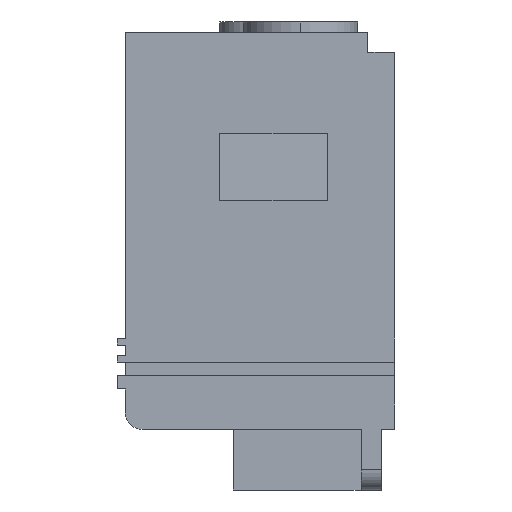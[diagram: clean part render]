
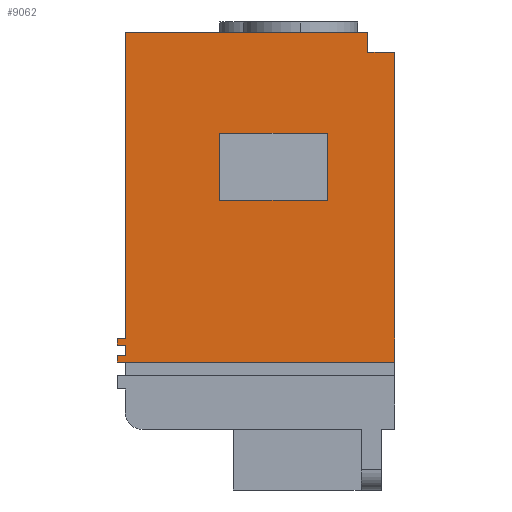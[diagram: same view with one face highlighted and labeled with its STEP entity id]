
A CAD part, left-side view. The second image highlights one B-rep face of the part: STEP entity #9062.
In plain terms, the highlighted planar face has unit normal (-1, 0, 0).
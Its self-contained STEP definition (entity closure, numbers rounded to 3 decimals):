
#585 = VECTOR ( 'NONE', #1659, 1000. ) ;
#591 = VECTOR ( 'NONE', #1644, 1000. ) ;
#1642 = LINE ( 'NONE', #1643, #591 ) ;
#1643 = CARTESIAN_POINT ( 'NONE',  ( -61., 12., -16.5 ) ) ;
#1644 = DIRECTION ( 'NONE',  ( 0., 0., -1. ) ) ;
#1657 = LINE ( 'NONE', #1658, #585 ) ;
#1658 = CARTESIAN_POINT ( 'NONE',  ( -61., -4., -26.5 ) ) ;
#1659 = DIRECTION ( 'NONE',  ( 0., 1., 0. ) ) ;
#2043 = VERTEX_POINT ( 'NONE', #4671 ) ;
#2414 = ORIENTED_EDGE ( 'NONE', *, *, #15225, .T. ) ;
#2415 = ORIENTED_EDGE ( 'NONE', *, *, #15226, .F. ) ;
#2416 = ORIENTED_EDGE ( 'NONE', *, *, #15224, .F. ) ;
#2417 = ORIENTED_EDGE ( 'NONE', *, *, #15227, .T. ) ;
#2418 = ORIENTED_EDGE ( 'NONE', *, *, #15228, .F. ) ;
#2419 = ORIENTED_EDGE ( 'NONE', *, *, #15168, .F. ) ;
#2420 = ORIENTED_EDGE ( 'NONE', *, *, #15229, .F. ) ;
#2421 = ORIENTED_EDGE ( 'NONE', *, *, #15231, .T. ) ;
#2422 = ORIENTED_EDGE ( 'NONE', *, *, #15230, .F. ) ;
#2423 = ORIENTED_EDGE ( 'NONE', *, *, #15232, .F. ) ;
#2424 = ORIENTED_EDGE ( 'NONE', *, *, #15233, .F. ) ;
#2425 = ORIENTED_EDGE ( 'NONE', *, *, #15235, .F. ) ;
#2426 = ORIENTED_EDGE ( 'NONE', *, *, #15236, .F. ) ;
#3078 = VERTEX_POINT ( 'NONE', #7966 ) ;
#3080 = VERTEX_POINT ( 'NONE', #7968 ) ;
#3167 = VERTEX_POINT ( 'NONE', #8055 ) ;
#3168 = VERTEX_POINT ( 'NONE', #8056 ) ;
#3169 = VERTEX_POINT ( 'NONE', #8057 ) ;
#3171 = VERTEX_POINT ( 'NONE', #8059 ) ;
#3172 = VERTEX_POINT ( 'NONE', #8060 ) ;
#3173 = VERTEX_POINT ( 'NONE', #8061 ) ;
#3174 = VERTEX_POINT ( 'NONE', #8062 ) ;
#3175 = VERTEX_POINT ( 'NONE', #8063 ) ;
#3176 = VERTEX_POINT ( 'NONE', #8064 ) ;
#3178 = VERTEX_POINT ( 'NONE', #8066 ) ;
#3179 = VERTEX_POINT ( 'NONE', #8067 ) ;
#3180 = VERTEX_POINT ( 'NONE', #8068 ) ;
#3186 = VERTEX_POINT ( 'NONE', #8074 ) ;
#4671 = CARTESIAN_POINT ( 'NONE',  ( -61., 12., -26.5 ) ) ;
#6883 = EDGE_LOOP ( 'NONE', ( #2414, #2416, #2415, #2417, #2418, #2419, #2420, #2422, #2421, #2423, #2424, #2425 ) ) ;
#6884 = EDGE_LOOP ( 'NONE', ( #2426, #7370, #7377, #7350 ) ) ;
#7350 = ORIENTED_EDGE ( 'NONE', *, *, #8914, .F. ) ;
#7370 = ORIENTED_EDGE ( 'NONE', *, *, #15234, .T. ) ;
#7377 = ORIENTED_EDGE ( 'NONE', *, *, #8919, .T. ) ;
#7966 = CARTESIAN_POINT ( 'NONE',  ( -61., 26., -47. ) ) ;
#7968 = CARTESIAN_POINT ( 'NONE',  ( -61., 26., -1.5 ) ) ;
#8055 = CARTESIAN_POINT ( 'NONE',  ( -61., 27.2, -50.5 ) ) ;
#8056 = CARTESIAN_POINT ( 'NONE',  ( -61., -14., -50.5 ) ) ;
#8057 = CARTESIAN_POINT ( 'NONE',  ( -61., -14., -4.5 ) ) ;
#8059 = CARTESIAN_POINT ( 'NONE',  ( -61., -10., -1.5 ) ) ;
#8060 = CARTESIAN_POINT ( 'NONE',  ( -61., -10., -4.5 ) ) ;
#8061 = CARTESIAN_POINT ( 'NONE',  ( -61., 27.2, -47. ) ) ;
#8062 = CARTESIAN_POINT ( 'NONE',  ( -61., 26., -49.5 ) ) ;
#8063 = CARTESIAN_POINT ( 'NONE',  ( -61., 26., -48. ) ) ;
#8064 = CARTESIAN_POINT ( 'NONE',  ( -61., 27.2, -48. ) ) ;
#8066 = CARTESIAN_POINT ( 'NONE',  ( -61., 27.2, -49.5 ) ) ;
#8067 = CARTESIAN_POINT ( 'NONE',  ( -61., -4., -16.5 ) ) ;
#8068 = CARTESIAN_POINT ( 'NONE',  ( -61., 12., -16.5 ) ) ;
#8074 = CARTESIAN_POINT ( 'NONE',  ( -61., -4., -26.5 ) ) ;
#8914 = EDGE_CURVE ( 'NONE', #3180, #2043, #1642, .T. ) ;
#8919 = EDGE_CURVE ( 'NONE', #3186, #2043, #1657, .T. ) ;
#9062 = ADVANCED_FACE ( 'NONE', ( #12917, #12920 ), #17939, .F. ) ;
#11518 = LINE ( 'NONE', #11519, #14225 ) ;
#11519 = CARTESIAN_POINT ( 'NONE',  ( -61., -14., -7.5 ) ) ;
#11520 = DIRECTION ( 'NONE',  ( 0., 0., -1. ) ) ;
#11521 = LINE ( 'NONE', #11522, #14226 ) ;
#11522 = CARTESIAN_POINT ( 'NONE',  ( -61., 27.2, -50.5 ) ) ;
#11523 = DIRECTION ( 'NONE',  ( 0., -1., 0. ) ) ;
#11524 = LINE ( 'NONE', #11525, #14227 ) ;
#11525 = CARTESIAN_POINT ( 'NONE',  ( -61., -14., -4.5 ) ) ;
#11526 = DIRECTION ( 'NONE',  ( 0., -1., 0. ) ) ;
#11527 = LINE ( 'NONE', #11528, #14228 ) ;
#11528 = CARTESIAN_POINT ( 'NONE',  ( -61., -10., -4.5 ) ) ;
#11529 = DIRECTION ( 'NONE',  ( 0., 0., 1. ) ) ;
#11530 = LINE ( 'NONE', #11531, #14229 ) ;
#11531 = CARTESIAN_POINT ( 'NONE',  ( -61., 26., -1.5 ) ) ;
#11532 = DIRECTION ( 'NONE',  ( 0., -1., 0. ) ) ;
#11533 = LINE ( 'NONE', #11534, #14230 ) ;
#11534 = CARTESIAN_POINT ( 'NONE',  ( -61., 27.2, -47. ) ) ;
#11535 = DIRECTION ( 'NONE',  ( 0., -1., 0. ) ) ;
#11536 = LINE ( 'NONE', #11537, #14231 ) ;
#11537 = CARTESIAN_POINT ( 'NONE',  ( -61., 27.2, -48. ) ) ;
#11538 = DIRECTION ( 'NONE',  ( 0., 0., 1. ) ) ;
#11539 = LINE ( 'NONE', #11540, #14232 ) ;
#11540 = CARTESIAN_POINT ( 'NONE',  ( -61., 27.2, -48. ) ) ;
#11541 = DIRECTION ( 'NONE',  ( 0., -1., 0. ) ) ;
#11542 = LINE ( 'NONE', #11543, #14233 ) ;
#11543 = CARTESIAN_POINT ( 'NONE',  ( -61., 26., -54.5 ) ) ;
#11544 = DIRECTION ( 'NONE',  ( 0., 0., 1. ) ) ;
#11545 = LINE ( 'NONE', #11546, #14234 ) ;
#11546 = CARTESIAN_POINT ( 'NONE',  ( -61., 27.2, -49.5 ) ) ;
#11547 = DIRECTION ( 'NONE',  ( 0., -1., 0. ) ) ;
#11548 = LINE ( 'NONE', #11549, #14235 ) ;
#11549 = CARTESIAN_POINT ( 'NONE',  ( -61., -4., -16.5 ) ) ;
#11550 = DIRECTION ( 'NONE',  ( 0., 0., -1. ) ) ;
#11551 = LINE ( 'NONE', #11552, #14236 ) ;
#11552 = CARTESIAN_POINT ( 'NONE',  ( -61., 27.2, -50.5 ) ) ;
#11553 = DIRECTION ( 'NONE',  ( 0., 0., 1. ) ) ;
#11554 = LINE ( 'NONE', #11555, #14237 ) ;
#11555 = CARTESIAN_POINT ( 'NONE',  ( -61., -4., -16.5 ) ) ;
#11556 = DIRECTION ( 'NONE',  ( 0., 1., 0. ) ) ;
#12893 = AXIS2_PLACEMENT_3D ( 'NONE', #17940, #17941, #17942 ) ;
#12917 = FACE_OUTER_BOUND ( 'NONE', #6883, .T. ) ;
#12920 = FACE_BOUND ( 'NONE', #6884, .T. ) ;
#13950 = LINE ( 'NONE', #13951, #14169 ) ;
#13951 = CARTESIAN_POINT ( 'NONE',  ( -61., 26., -7.5 ) ) ;
#13952 = DIRECTION ( 'NONE',  ( 0., 0., 1. ) ) ;
#14169 = VECTOR ( 'NONE', #13952, 1000. ) ;
#14225 = VECTOR ( 'NONE', #11520, 1000. ) ;
#14226 = VECTOR ( 'NONE', #11523, 1000. ) ;
#14227 = VECTOR ( 'NONE', #11526, 1000. ) ;
#14228 = VECTOR ( 'NONE', #11529, 1000. ) ;
#14229 = VECTOR ( 'NONE', #11532, 1000. ) ;
#14230 = VECTOR ( 'NONE', #11535, 1000. ) ;
#14231 = VECTOR ( 'NONE', #11538, 1000. ) ;
#14232 = VECTOR ( 'NONE', #11541, 1000. ) ;
#14233 = VECTOR ( 'NONE', #11544, 1000. ) ;
#14234 = VECTOR ( 'NONE', #11547, 1000. ) ;
#14235 = VECTOR ( 'NONE', #11550, 1000. ) ;
#14236 = VECTOR ( 'NONE', #11553, 1000. ) ;
#14237 = VECTOR ( 'NONE', #11556, 1000. ) ;
#15168 = EDGE_CURVE ( 'NONE', #3078, #3080, #13950, .T. ) ;
#15224 = EDGE_CURVE ( 'NONE', #3169, #3168, #11518, .T. ) ;
#15225 = EDGE_CURVE ( 'NONE', #3167, #3168, #11521, .T. ) ;
#15226 = EDGE_CURVE ( 'NONE', #3172, #3169, #11524, .T. ) ;
#15227 = EDGE_CURVE ( 'NONE', #3172, #3171, #11527, .T. ) ;
#15228 = EDGE_CURVE ( 'NONE', #3080, #3171, #11530, .T. ) ;
#15229 = EDGE_CURVE ( 'NONE', #3173, #3078, #11533, .T. ) ;
#15230 = EDGE_CURVE ( 'NONE', #3176, #3173, #11536, .T. ) ;
#15231 = EDGE_CURVE ( 'NONE', #3176, #3175, #11539, .T. ) ;
#15232 = EDGE_CURVE ( 'NONE', #3174, #3175, #11542, .T. ) ;
#15233 = EDGE_CURVE ( 'NONE', #3178, #3174, #11545, .T. ) ;
#15234 = EDGE_CURVE ( 'NONE', #3179, #3186, #11548, .T. ) ;
#15235 = EDGE_CURVE ( 'NONE', #3167, #3178, #11551, .T. ) ;
#15236 = EDGE_CURVE ( 'NONE', #3179, #3180, #11554, .T. ) ;
#17939 = PLANE ( 'NONE',  #12893 ) ;
#17940 = CARTESIAN_POINT ( 'NONE',  ( -61., -9., -60.5 ) ) ;
#17941 = DIRECTION ( 'NONE',  ( 1., 0., 0. ) ) ;
#17942 = DIRECTION ( 'NONE',  ( 0., 1., 0. ) ) ;
